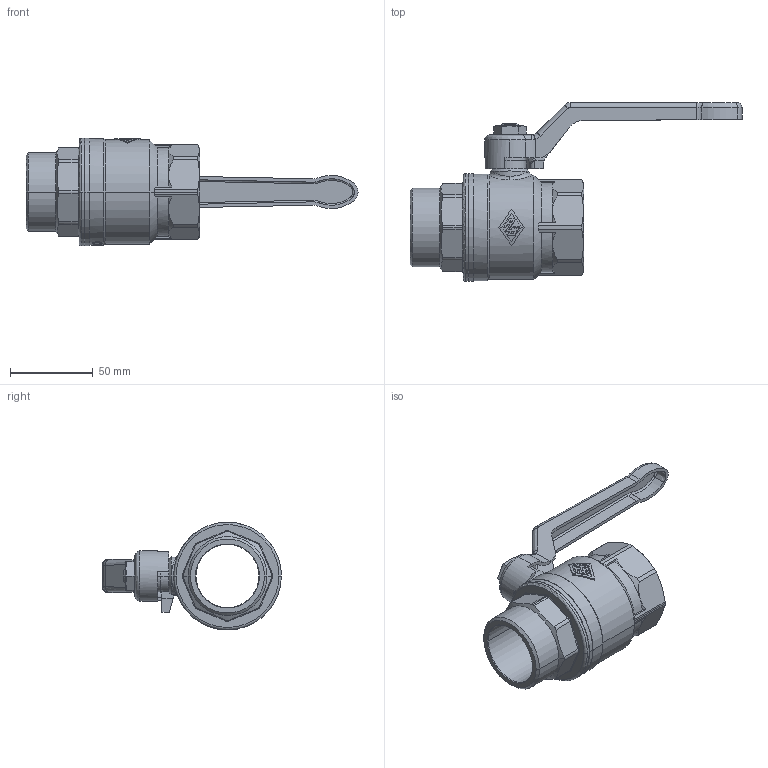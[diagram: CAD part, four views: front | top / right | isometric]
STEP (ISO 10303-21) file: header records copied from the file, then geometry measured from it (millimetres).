
FILE_DESCRIPTION(('OneSpaceDesigner STEP Export'),'2;1');
FILE_NAME('1501080000.stp','2007-09-24T10:15:06',(''),(''),'OneSpace Designer STEP processor for AP214 (Solid Model)','OneSpace Modeling 15.00B 25-Jun-2007 (C) CoCreate Software GmbH','');
FILE_SCHEMA(('AUTOMOTIVE_DESIGN { 1 0 10303 214 1 1 1 1 }'));
Length unit declared in the file: millimetre
Products named in the file (2): 1501080000
Assembly tree (1 placements, depth 2):
  1501080000
    1501080000
Bounding box: 200.25 x 107.8 x 65 mm (x, y, z)
Volume: 161951.9 mm3; surface area: 52199.5 mm2
Topology: 1 solids, 3 shells, 839 faces, 2274 edges, 1460 vertices
Faces by surface type: plane 497, cylinder 199, cone 77, bspline 32, torus 26, sphere 4, extrusion 4
Entity records: 39815 total; most frequent: CARTESIAN_POINT 18458, ORIENTED_EDGE 4542, DIRECTION 3847, EDGE_CURVE 2271, VERTEX_POINT 1460, AXIS2_PLACEMENT_3D 1423, VECTOR 1001, LINE 997
